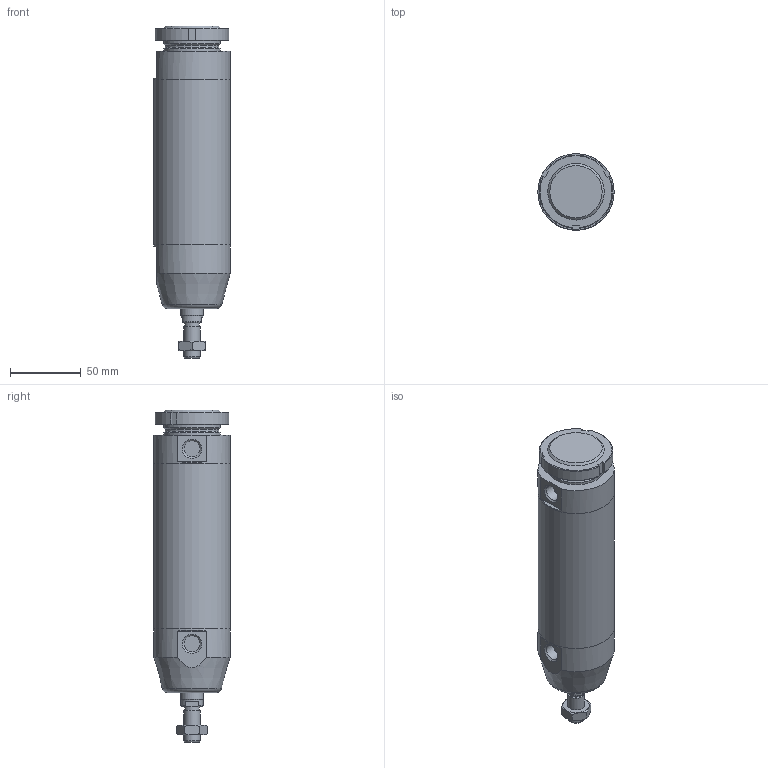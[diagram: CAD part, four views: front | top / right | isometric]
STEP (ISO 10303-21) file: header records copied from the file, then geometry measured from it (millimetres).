
FILE_DESCRIPTION(/* description */ (''),/* implementation_level */ '2;1');
FILE_NAME(/* name */ 'I:\Area Tecnica\Documenti\A-Manieri\_Inventor\12X\12X#B_###_####_#_#\12XAB_050_0075_#_#.stp',/* time_stamp */ '2015-04-27T16:25:12+02:00',/* author */ ('maniean1'),/* organization */ ('Pneumax S.p.A.'),/* preprocessor_version */ 'ST-DEVELOPER v15.2',/* originating_system */ 'Autodesk Inventor 2014',/* authorisation */ '');
FILE_SCHEMA (('AUTOMOTIVE_DESIGN { 1 0 10303 214 3 1 1 }'));
Length unit declared in the file: millimetre
Products named in the file (7): C1250_619-0075; 12X50_613; S12X50_0075; 12X_50_11; 12X50_620; G12X_050_05; 12XAB_050_0075_#_#
Bounding box: 54 x 54 x 235 mm (x, y, z)
Volume: 306421.9 mm3; surface area: 85339.7 mm2
Topology: 6 solids, 6 shells, 80 faces, 175 edges, 112 vertices
Faces by surface type: plane 40, cylinder 20, cone 19, torus 1
Full cylindrical faces by diameter (mm): 10.2 x1, 11.4 x2, 12 x2, 14 x1, 15.6 x1, 16 x1, 38.2 x1, 40 x3, 50 x2, 54 x3
Entity records: 2134 total; most frequent: CARTESIAN_POINT 399, DIRECTION 359, ORIENTED_EDGE 282, AXIS2_PLACEMENT_3D 154, EDGE_CURVE 141, EDGE_LOOP 122, VERTEX_POINT 107, ADVANCED_FACE 80
